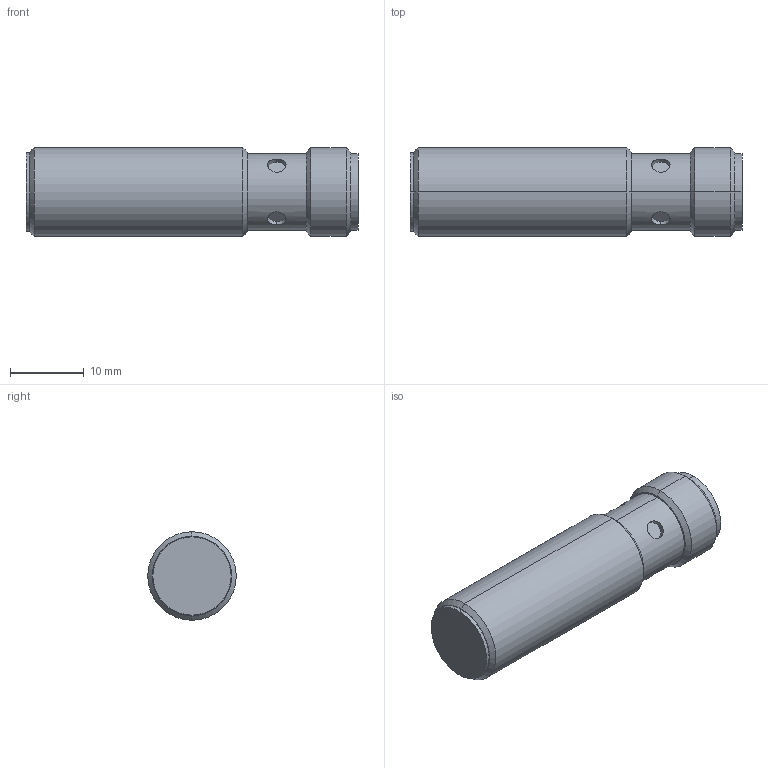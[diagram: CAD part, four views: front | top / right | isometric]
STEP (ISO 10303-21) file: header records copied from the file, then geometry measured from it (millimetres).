
FILE_DESCRIPTION (( 'STEP AP203' ), '1' );
FILE_NAME ('15000004.STEP', '2019-02-15T13:30:59', ( '' ), ( '' ), 'SwSTEP 2.0', 'SolidWorks 2015', '' );
FILE_SCHEMA (( 'CONFIG_CONTROL_DESIGN' ));
Length unit declared in the file: millimetre
Products named in the file (1): 15000004
Bounding box: 45 x 12 x 12 mm (x, y, z)
Volume: 4331.9 mm3; surface area: 2225.5 mm2
Topology: 1 solids, 1 shells, 63 faces, 128 edges, 80 vertices
Faces by surface type: cylinder 29, plane 18, cone 16
Entity records: 1867 total; most frequent: CARTESIAN_POINT 416, DIRECTION 316, ORIENTED_EDGE 256, AXIS2_PLACEMENT_3D 132, EDGE_CURVE 128, VERTEX_POINT 80, EDGE_LOOP 76, CIRCLE 68
